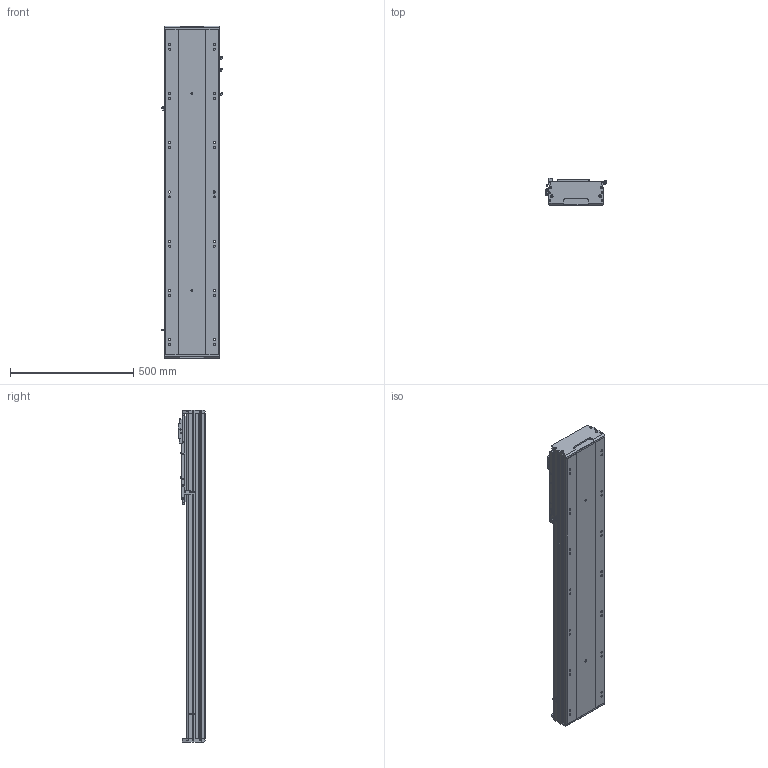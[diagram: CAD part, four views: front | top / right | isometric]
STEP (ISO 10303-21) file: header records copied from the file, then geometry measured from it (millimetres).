
FILE_DESCRIPTION (( 'STEP AP203' ), '1' );
FILE_NAME ('BEH22-A-M2-900-L1-¦Õ22-PCD100-M6-C3.STEP', '2022-06-21T05:35:17', ( 'CXY' ), ( 'BT' ), 'SwSTEP 2.0', 'SolidWorks 2016', '' );
FILE_SCHEMA (( 'CONFIG_CONTROL_DESIGN' ));
Length unit declared in the file: millimetre
Products named in the file (12): FS-25-6.66-M2-H22K6; BEH22-B-01-XX-2; BEH22-A-M2-900-L1-耳22-PCD100-M6-C3; _G-M6; FS-01-10（10毫米）; BEH22-07-PCD100-80-M6; BEH22-04-F; 萇儂階踡輸; FS-02-BTH22; BTH22-07-DZ; BEH22-04-01_L; PM-T65
Assembly tree (18 placements, depth 3):
  BEH22-A-M2-900-L1-耳22-PCD100-M6-C3
    BEH22-B-01-XX-2
    BTH22-07-DZ  x2
    PM-T65  x2
    BEH22-04-01_L
      BEH22-04-F
      萇儂階踡輸
      _G-M6  x3
      FS-02-BTH22
      FS-01-10（10毫米）  x4
      BEH22-07-PCD100-80-M6
      FS-25-6.66-M2-H22K6
Bounding box: 247.7 x 111 x 1348 mm (x, y, z)
Volume: 15191269.7 mm3; surface area: 1590566.3 mm2
Topology: 21 solids, 21 shells, 1842 faces, 5098 edges, 3278 vertices
Faces by surface type: cylinder 808, plane 742, cone 233, bspline 37, torus 22
Entity records: 443098 total; most frequent: CARTESIAN_POINT 404999, ORIENTED_EDGE 8016, DIRECTION 7320, EDGE_CURVE 4008, AXIS2_PLACEMENT_3D 2686, VERTEX_POINT 2638, LINE 1948, VECTOR 1948
